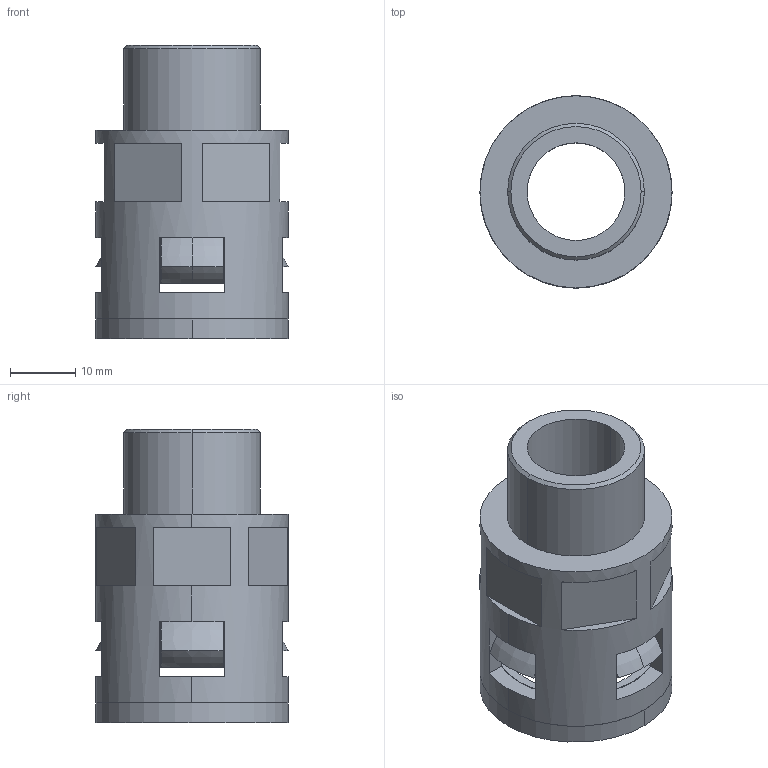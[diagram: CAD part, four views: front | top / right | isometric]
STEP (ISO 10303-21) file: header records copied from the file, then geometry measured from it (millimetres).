
FILE_DESCRIPTION (( 'STEP AP203' ), '1' );
FILE_NAME ('WQG-G1 2-AD21.2.STEP', '2013-02-18T07:32:12', ( 'User' ), ( 'Microsoft' ), 'SwSTEP 2.0', 'SolidWorks 2010', '' );
FILE_SCHEMA (( 'CONFIG_CONTROL_DESIGN' ));
Length unit declared in the file: millimetre
Products named in the file (4): GFD-AD21.2; NSK-AD21.2; WQG-G1 2-AD21.2-01; WQG-G1 2-AD21.2
Assembly tree (3 placements, depth 2):
  WQG-G1 2-AD21.2
    GFD-AD21.2
    NSK-AD21.2
    WQG-G1 2-AD21.2-01
Bounding box: 29.5 x 29.5 x 45 mm (x, y, z)
Volume: 11085.6 mm3; surface area: 15490.5 mm2
Topology: 6 solids, 8 shells, 241 faces, 584 edges, 356 vertices
Faces by surface type: plane 100, cone 75, cylinder 34, torus 32
Entity records: 7630 total; most frequent: CARTESIAN_POINT 1363, DIRECTION 1342, ORIENTED_EDGE 1168, EDGE_CURVE 584, AXIS2_PLACEMENT_3D 535, VERTEX_POINT 356, CIRCLE 288, VECTOR 272
